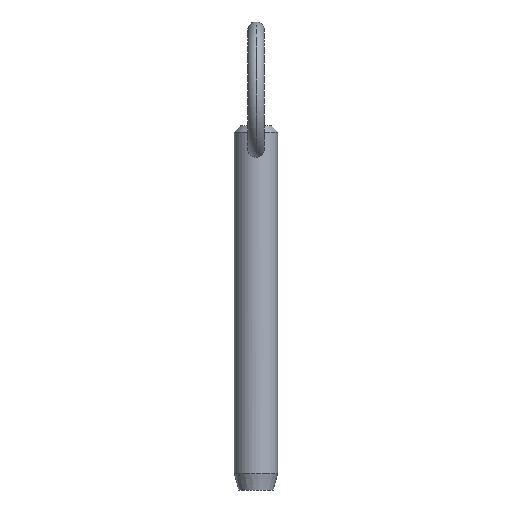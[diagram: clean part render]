
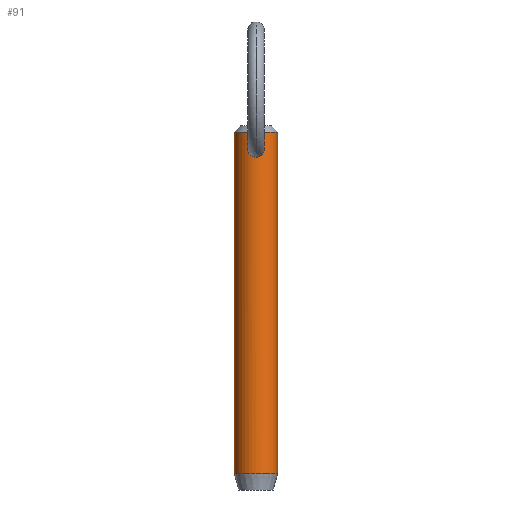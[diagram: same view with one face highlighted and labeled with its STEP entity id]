
A CAD part, front view. The second image highlights one B-rep face of the part: STEP entity #91.
In plain terms, the highlighted cylindrical face has radius 3.965 mm (diameter 7.93 mm), a partial arc.
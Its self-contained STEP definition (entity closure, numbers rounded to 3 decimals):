
#3 = CARTESIAN_POINT ( 'NONE',  ( -1.379, -3.718, 52.303 ) ) ;
#8 = B_SPLINE_CURVE_WITH_KNOTS ( 'NONE', 3,
 ( #509, #475, #111, #310, #479, #473, #305, #33, #153, #356, #229, #395, #151, #194, #352, #400, #236, #392, #439, #75, #197, #116, #149, #510, #195, #190 ),
 .UNSPECIFIED., .F., .F.,
 ( 4, 2, 2, 2, 2, 2, 2, 2, 2, 2, 2, 2, 4 ),
 ( 0.004, 0.005, 0.005, 0.005, 0.006, 0.006, 0.007, 0.007, 0.007, 0.008, 0.008, 0.008, 0.009 ),
 .UNSPECIFIED. ) ;
#22 = EDGE_CURVE ( 'NONE', #70, #58, #93, .T. ) ;
#24 = CIRCLE ( 'NONE', #206, 3.965 ) ;
#33 = CARTESIAN_POINT ( 'NONE',  ( 1.186, -3.786, 53.959 ) ) ;
#37 = CARTESIAN_POINT ( 'NONE',  ( -0.403, -3.946, 54.582 ) ) ;
#40 = CARTESIAN_POINT ( 'NONE',  ( -1.229, -3.77, 52.039 ) ) ;
#42 = CARTESIAN_POINT ( 'NONE',  ( -0.77, -3.894, 54.4 ) ) ;
#43 = EDGE_CURVE ( 'NONE', #355, #80, #490, .T. ) ;
#58 = VERTEX_POINT ( 'NONE', #312 ) ;
#70 = VERTEX_POINT ( 'NONE', #311 ) ;
#75 = CARTESIAN_POINT ( 'NONE',  ( 1.028, -3.83, 51.815 ) ) ;
#79 = CARTESIAN_POINT ( 'NONE',  ( 0., -3.965, 54.647 ) ) ;
#80 = VERTEX_POINT ( 'NONE', #354 ) ;
#82 = CARTESIAN_POINT ( 'NONE',  ( -1.48, -3.679, 52.589 ) ) ;
#91 = ADVANCED_FACE ( 'NONE', ( #496, #227 ), #280, .T. ) ;
#93 = LINE ( 'NONE', #201, #220 ) ;
#95 = CARTESIAN_POINT ( 'NONE',  ( 0., 0., -6.52 ) ) ;
#99 = EDGE_CURVE ( 'NONE', #120, #503, #330, .T. ) ;
#103 = VECTOR ( 'NONE', #399, 1000. ) ;
#111 = CARTESIAN_POINT ( 'NONE',  ( 0.205, -3.961, 54.634 ) ) ;
#116 = CARTESIAN_POINT ( 'NONE',  ( 0.782, -3.888, 51.637 ) ) ;
#117 = CARTESIAN_POINT ( 'NONE',  ( -1.508, -3.667, 52.797 ) ) ;
#120 = VERTEX_POINT ( 'NONE', #406 ) ;
#121 = CARTESIAN_POINT ( 'NONE',  ( -0.957, -3.85, 51.741 ) ) ;
#129 = EDGE_LOOP ( 'NONE', ( #361, #339, #139, #315 ) ) ;
#139 = ORIENTED_EDGE ( 'NONE', *, *, #43, .T. ) ;
#149 = CARTESIAN_POINT ( 'NONE',  ( 0.693, -3.905, 51.59 ) ) ;
#151 = CARTESIAN_POINT ( 'NONE',  ( 1.493, -3.673, 53.104 ) ) ;
#153 = CARTESIAN_POINT ( 'NONE',  ( 1.291, -3.75, 53.783 ) ) ;
#157 = CARTESIAN_POINT ( 'NONE',  ( -0.206, -3.961, 54.634 ) ) ;
#161 = CARTESIAN_POINT ( 'NONE',  ( -0.41, -3.948, 51.474 ) ) ;
#173 = CARTESIAN_POINT ( 'NONE',  ( 0., 0., 55.95 ) ) ;
#175 = DIRECTION ( 'NONE',  ( 0., 0., -1. ) ) ;
#190 = CARTESIAN_POINT ( 'NONE',  ( 0., -3.965, 51.435 ) ) ;
#194 = CARTESIAN_POINT ( 'NONE',  ( 1.503, -3.669, 52.899 ) ) ;
#195 = CARTESIAN_POINT ( 'NONE',  ( 0.205, -3.965, 51.435 ) ) ;
#196 = CARTESIAN_POINT ( 'NONE',  ( -1.441, -3.695, 53.408 ) ) ;
#197 = CARTESIAN_POINT ( 'NONE',  ( 0.949, -3.851, 51.749 ) ) ;
#201 = CARTESIAN_POINT ( 'NONE',  ( 3.965, 0., 50.8 ) ) ;
#202 = CARTESIAN_POINT ( 'NONE',  ( -1.335, -3.734, 52.21 ) ) ;
#206 = AXIS2_PLACEMENT_3D ( 'NONE', #173, #175, #378 ) ;
#220 = VECTOR ( 'NONE', #358, 1000. ) ;
#227 = FACE_BOUND ( 'NONE', #246, .T. ) ;
#229 = CARTESIAN_POINT ( 'NONE',  ( 1.434, -3.697, 53.405 ) ) ;
#233 = CARTESIAN_POINT ( 'NONE',  ( -0.205, -3.965, 51.435 ) ) ;
#235 = EDGE_CURVE ( 'NONE', #80, #58, #257, .T. ) ;
#236 = CARTESIAN_POINT ( 'NONE',  ( 1.447, -3.692, 52.493 ) ) ;
#237 = CARTESIAN_POINT ( 'NONE',  ( -0.102, -3.965, 54.647 ) ) ;
#239 = CARTESIAN_POINT ( 'NONE',  ( -1.29, -3.75, 53.785 ) ) ;
#246 = EDGE_LOOP ( 'NONE', ( #375, #328 ) ) ;
#257 = CIRCLE ( 'NONE', #347, 3.965 ) ;
#270 = EDGE_CURVE ( 'NONE', #70, #355, #24, .T. ) ;
#276 = CARTESIAN_POINT ( 'NONE',  ( -0.788, -3.891, 51.628 ) ) ;
#278 = CARTESIAN_POINT ( 'NONE',  ( -1.186, -3.786, 53.96 ) ) ;
#280 = CYLINDRICAL_SURFACE ( 'NONE', #508, 3.965 ) ;
#305 = CARTESIAN_POINT ( 'NONE',  ( 0.925, -3.858, 54.268 ) ) ;
#310 = CARTESIAN_POINT ( 'NONE',  ( 0.404, -3.946, 54.582 ) ) ;
#311 = CARTESIAN_POINT ( 'NONE',  ( 3.965, 0., 55.95 ) ) ;
#312 = CARTESIAN_POINT ( 'NONE',  ( 3.965, 0., -6.52 ) ) ;
#315 = ORIENTED_EDGE ( 'NONE', *, *, #235, .T. ) ;
#317 = DIRECTION ( 'NONE',  ( -1., 0., 0. ) ) ;
#318 = CARTESIAN_POINT ( 'NONE',  ( 0., 0., 50.8 ) ) ;
#328 = ORIENTED_EDGE ( 'NONE', *, *, #99, .T. ) ;
#330 = B_SPLINE_CURVE_WITH_KNOTS ( 'NONE', 3,
 ( #357, #233, #161, #276, #121, #403, #40, #202, #3, #82, #117, #486, #196, #239, #278, #512, #42, #362, #37, #157, #237, #444 ),
 .UNSPECIFIED., .F., .F.,
 ( 4, 2, 2, 2, 2, 2, 2, 2, 2, 2, 4 ),
 ( 0.009, 0.01, 0.01, 0.011, 0.011, 0.012, 0.012, 0.013, 0.013, 0.014, 0.014 ),
 .UNSPECIFIED. ) ;
#339 = ORIENTED_EDGE ( 'NONE', *, *, #270, .T. ) ;
#347 = AXIS2_PLACEMENT_3D ( 'NONE', #95, #459, #418 ) ;
#352 = CARTESIAN_POINT ( 'NONE',  ( 1.499, -3.671, 52.797 ) ) ;
#354 = CARTESIAN_POINT ( 'NONE',  ( -3.965, 0., -6.52 ) ) ;
#355 = VERTEX_POINT ( 'NONE', #376 ) ;
#356 = CARTESIAN_POINT ( 'NONE',  ( 1.404, -3.708, 53.501 ) ) ;
#357 = CARTESIAN_POINT ( 'NONE',  ( 0., -3.965, 51.435 ) ) ;
#358 = DIRECTION ( 'NONE',  ( 0., 0., -1. ) ) ;
#361 = ORIENTED_EDGE ( 'NONE', *, *, #22, .F. ) ;
#362 = CARTESIAN_POINT ( 'NONE',  ( -0.498, -3.935, 54.544 ) ) ;
#375 = ORIENTED_EDGE ( 'NONE', *, *, #494, .T. ) ;
#376 = CARTESIAN_POINT ( 'NONE',  ( -3.965, 0., 55.95 ) ) ;
#378 = DIRECTION ( 'NONE',  ( 1., 0., 0. ) ) ;
#392 = CARTESIAN_POINT ( 'NONE',  ( 1.346, -3.73, 52.208 ) ) ;
#395 = CARTESIAN_POINT ( 'NONE',  ( 1.479, -3.679, 53.207 ) ) ;
#399 = DIRECTION ( 'NONE',  ( 0., 0., -1. ) ) ;
#400 = CARTESIAN_POINT ( 'NONE',  ( 1.471, -3.682, 52.594 ) ) ;
#401 = CARTESIAN_POINT ( 'NONE',  ( -3.965, 0., 50.8 ) ) ;
#403 = CARTESIAN_POINT ( 'NONE',  ( -1.168, -3.79, 51.959 ) ) ;
#406 = CARTESIAN_POINT ( 'NONE',  ( 0., -3.965, 51.435 ) ) ;
#418 = DIRECTION ( 'NONE',  ( -1., 0., 0. ) ) ;
#439 = CARTESIAN_POINT ( 'NONE',  ( 1.237, -3.77, 52.031 ) ) ;
#443 = DIRECTION ( 'NONE',  ( 0., 0., -1. ) ) ;
#444 = CARTESIAN_POINT ( 'NONE',  ( 0., -3.965, 54.647 ) ) ;
#459 = DIRECTION ( 'NONE',  ( 0., 0., 1. ) ) ;
#473 = CARTESIAN_POINT ( 'NONE',  ( 0.77, -3.894, 54.4 ) ) ;
#475 = CARTESIAN_POINT ( 'NONE',  ( 0.102, -3.965, 54.647 ) ) ;
#479 = CARTESIAN_POINT ( 'NONE',  ( 0.498, -3.935, 54.544 ) ) ;
#486 = CARTESIAN_POINT ( 'NONE',  ( -1.488, -3.675, 53.205 ) ) ;
#490 = LINE ( 'NONE', #401, #103 ) ;
#494 = EDGE_CURVE ( 'NONE', #503, #120, #8, .T. ) ;
#496 = FACE_OUTER_BOUND ( 'NONE', #129, .T. ) ;
#503 = VERTEX_POINT ( 'NONE', #79 ) ;
#508 = AXIS2_PLACEMENT_3D ( 'NONE', #318, #443, #317 ) ;
#509 = CARTESIAN_POINT ( 'NONE',  ( 0., -3.965, 54.647 ) ) ;
#510 = CARTESIAN_POINT ( 'NONE',  ( 0.409, -3.948, 51.474 ) ) ;
#512 = CARTESIAN_POINT ( 'NONE',  ( -0.925, -3.858, 54.268 ) ) ;
